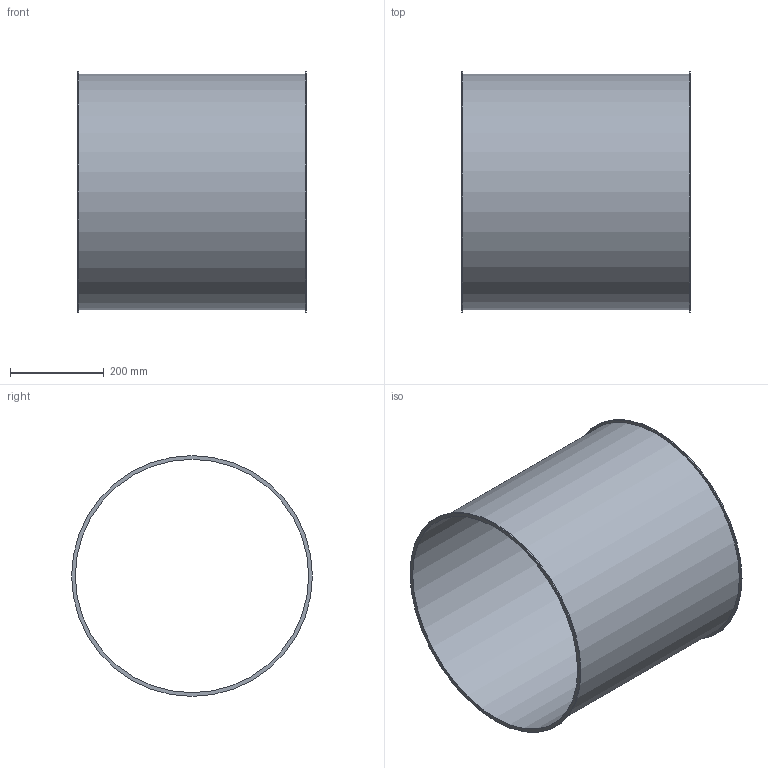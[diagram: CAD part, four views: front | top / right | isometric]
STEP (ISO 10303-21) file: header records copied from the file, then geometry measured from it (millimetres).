
FILE_DESCRIPTION((''),'2;1');
FILE_NAME('U:\Wolfgang\Marcel-3D\fertig\Kapitel 1\5021003.stp','2010-05-31T12:36:56',('TK2'),(''),'Autodesk Inventor 2010','Autodesk Inventor 2010','');
FILE_SCHEMA(('AUTOMOTIVE_DESIGN { 1 0 10303 214 1 1 1 1 }'));
Length unit declared in the file: millimetre
Products named in the file (1): 5021003
Bounding box: 488 x 514 x 514 mm (x, y, z)
Volume: 1571399.5 mm3; surface area: 1577833.5 mm2
Topology: 1 solids, 1 shells, 8 faces, 12 edges, 8 vertices
Faces by surface type: cylinder 4, plane 4
Full cylindrical faces by diameter (mm): 498 x1, 502 x1, 514 x2
Entity records: 194 total; most frequent: DIRECTION 34, CARTESIAN_POINT 25, AXIS2_PLACEMENT_3D 17, ORIENTED_EDGE 16, EDGE_LOOP 16, VERTEX_POINT 8, CIRCLE 8, EDGE_CURVE 8
